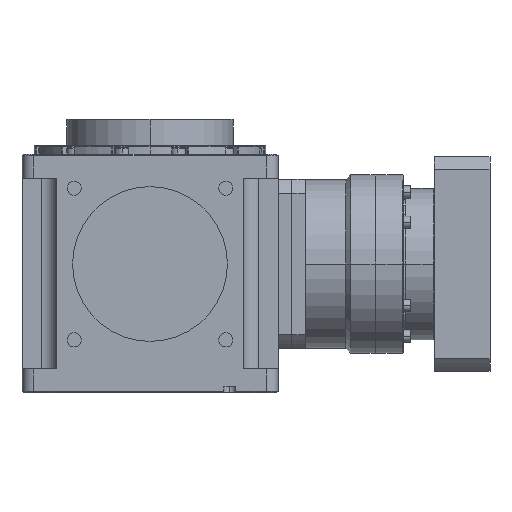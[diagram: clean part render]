
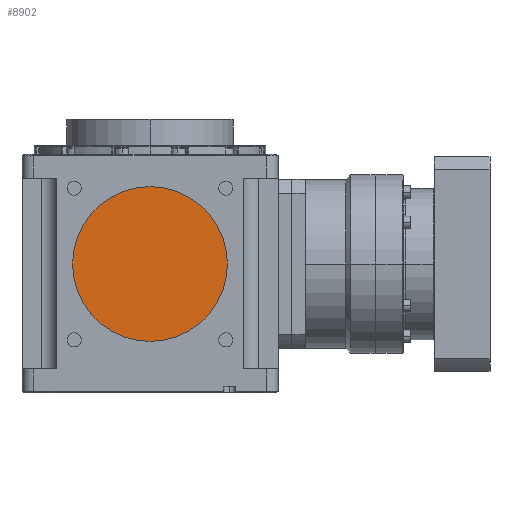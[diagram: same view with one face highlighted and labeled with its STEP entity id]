
A CAD part, left-side view. The second image highlights one B-rep face of the part: STEP entity #8902.
In plain terms, the highlighted planar face has unit normal (-1, 0, 0).
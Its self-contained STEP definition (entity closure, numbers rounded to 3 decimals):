
#902 = AXIS2_PLACEMENT_3D ( 'NONE', #8813, #904, #19519 ) ;
#904 = DIRECTION ( 'NONE',  ( -1., 0., 0. ) ) ;
#2517 = VERTEX_POINT ( 'NONE', #7451 ) ;
#3522 = DIRECTION ( 'NONE',  ( -1., 0., 0. ) ) ;
#3737 = EDGE_CURVE ( 'NONE', #2517, #7277, #4013, .T. ) ;
#3839 = ORIENTED_EDGE ( 'NONE', *, *, #13901, .T. ) ;
#4013 = CIRCLE ( 'NONE', #902, 65. ) ;
#4221 = DIRECTION ( 'NONE',  ( 0., -1., 0. ) ) ;
#7277 = VERTEX_POINT ( 'NONE', #22630 ) ;
#7451 = CARTESIAN_POINT ( 'NONE',  ( -102.5, -65., 0. ) ) ;
#7630 = PLANE ( 'NONE',  #21399 ) ;
#8450 = CIRCLE ( 'NONE', #20096, 65. ) ;
#8813 = CARTESIAN_POINT ( 'NONE',  ( -102.5, 0., 0. ) ) ;
#8902 = ADVANCED_FACE ( 'NONE', ( #20659 ), #7630, .T. ) ;
#10692 = ORIENTED_EDGE ( 'NONE', *, *, #3737, .T. ) ;
#13007 = CARTESIAN_POINT ( 'NONE',  ( -102.5, 0., 0. ) ) ;
#13901 = EDGE_CURVE ( 'NONE', #7277, #2517, #8450, .T. ) ;
#15512 = DIRECTION ( 'NONE',  ( -1., 0., 0. ) ) ;
#17241 = CARTESIAN_POINT ( 'NONE',  ( -102.5, 0., 0. ) ) ;
#19519 = DIRECTION ( 'NONE',  ( 0., -1., 0. ) ) ;
#20096 = AXIS2_PLACEMENT_3D ( 'NONE', #13007, #3522, #21917 ) ;
#20659 = FACE_OUTER_BOUND ( 'NONE', #20719, .T. ) ;
#20719 = EDGE_LOOP ( 'NONE', ( #10692, #3839 ) ) ;
#21399 = AXIS2_PLACEMENT_3D ( 'NONE', #17241, #15512, #4221 ) ;
#21917 = DIRECTION ( 'NONE',  ( 0., -1., 0. ) ) ;
#22630 = CARTESIAN_POINT ( 'NONE',  ( -102.5, 65., 0. ) ) ;
